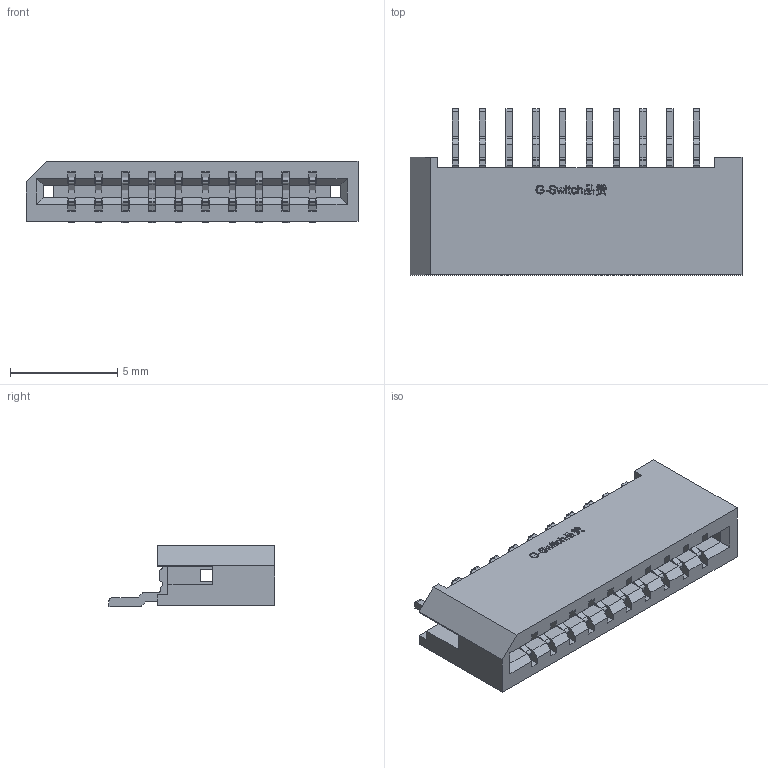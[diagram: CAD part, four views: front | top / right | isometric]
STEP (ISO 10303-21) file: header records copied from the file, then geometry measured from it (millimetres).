
FILE_DESCRIPTION((''),'2;1');
FILE_NAME('GT-F1251SR28-10BBT01_ASM','2024-02-23T',('13532'),(''),'PRO/ENGINEER BY PARAMETRIC TECHNOLOGY CORPORATION, 2015070','PRO/ENGINEER BY PARAMETRIC TECHNOLOGY CORPORATION, 2015070','');
FILE_SCHEMA(('CONFIG_CONTROL_DESIGN'));
Length unit declared in the file: millimetre
Products named in the file (17): GT-F1251SR28-10BBT01_STP_1__6_; GT-F1251SR28-10BBT01_STP_1__1_; GT-F1251SR28-10BBT01_STP_1__4_; GT-F1251SR28-10BBT01_STP_1__8_; GT-F1251SR28-10BBT01_STP_1__5_; GT-F1251SR28-10BBT01_STP_1__9_; GT-F1251SR28-10BBT01_STP_1__7_; GT-F1251SR28-10BBT01_STP_1__10_; GT-F1251SR28-10BBT01_STP_1__2_; GT-F1251SR28-10BBT01_STP_1__3_; 125C-0002_STP_ASM; 125C0_7_1_STP; 125C0_ASM_9_ASM_1_ASM_STP_ASM; 125C-10P0001_ASM_1_ASM_STP_ASM; GT-F1251SR28-10BBT01_STP_ASM; ASM0001_ASM; GT-F1251SR28-10BBT01_ASM
Assembly tree (16 placements, depth 6):
  GT-F1251SR28-10BBT01_ASM
    ASM0001_ASM
      GT-F1251SR28-10BBT01_STP_ASM
        125C-0002_STP_ASM
          GT-F1251SR28-10BBT01_STP_1__6_
          GT-F1251SR28-10BBT01_STP_1__1_
          GT-F1251SR28-10BBT01_STP_1__4_
          GT-F1251SR28-10BBT01_STP_1__8_
          GT-F1251SR28-10BBT01_STP_1__5_
          GT-F1251SR28-10BBT01_STP_1__9_
          GT-F1251SR28-10BBT01_STP_1__7_
          GT-F1251SR28-10BBT01_STP_1__10_
          GT-F1251SR28-10BBT01_STP_1__2_
          GT-F1251SR28-10BBT01_STP_1__3_
        125C-10P0001_ASM_1_ASM_STP_ASM
          125C0_ASM_9_ASM_1_ASM_STP_ASM
            125C0_7_1_STP
Bounding box: 15.5 x 7.75 x 2.85 mm (x, y, z)
Volume: 178.3 mm3; surface area: 730.1 mm2
Topology: 11 solids, 11 shells, 1186 faces, 3455 edges, 2308 vertices
Faces by surface type: plane 772, cylinder 340, extrusion 74
Entity records: 42431 total; most frequent: CARTESIAN_POINT 10120, ORIENTED_EDGE 6910, DIRECTION 6441, EDGE_CURVE 3455, VECTOR 2641, LINE 2567, VERTEX_POINT 2308, AXIS2_PLACEMENT_3D 1900
